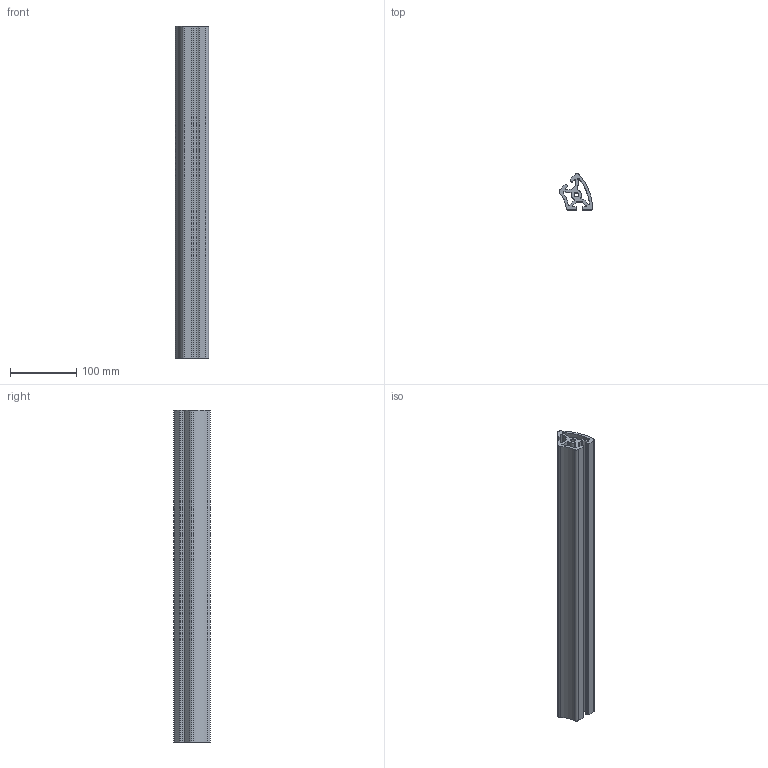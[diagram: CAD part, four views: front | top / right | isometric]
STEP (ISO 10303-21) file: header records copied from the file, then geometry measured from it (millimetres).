
FILE_DESCRIPTION (( 'STEP AP203' ), '1' );
FILE_NAME ('M ATP I8 40RR45.STEP', '2012-06-04T09:44:31', ( 'alle' ), ( 'Hewlett-Packard Company' ), 'SwSTEP 2.0', 'SolidWorks 2011', '' );
FILE_SCHEMA (( 'CONFIG_CONTROL_DESIGN' ));
Length unit declared in the file: millimetre
Products named in the file (1): M ATP I8 40RR45
Bounding box: 50.08 x 54.84 x 500 mm (x, y, z)
Volume: 513223 mm3; surface area: 213540.1 mm2
Topology: 1 solids, 1 shells, 69 faces, 201 edges, 134 vertices
Faces by surface type: cylinder 53, plane 16
Entity records: 2430 total; most frequent: DIRECTION 447, CARTESIAN_POINT 405, ORIENTED_EDGE 402, EDGE_CURVE 201, AXIS2_PLACEMENT_3D 176, VERTEX_POINT 134, CIRCLE 106, LINE 95
